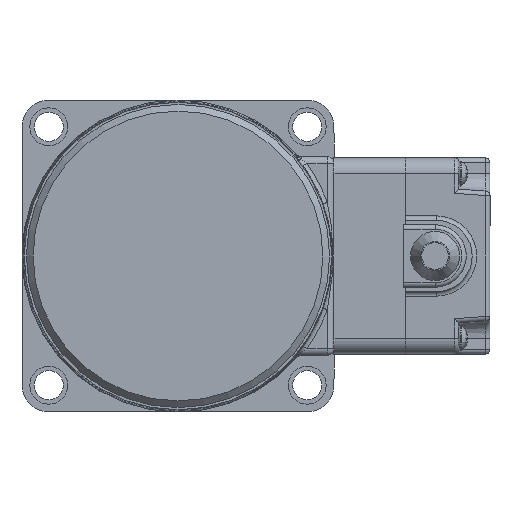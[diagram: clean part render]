
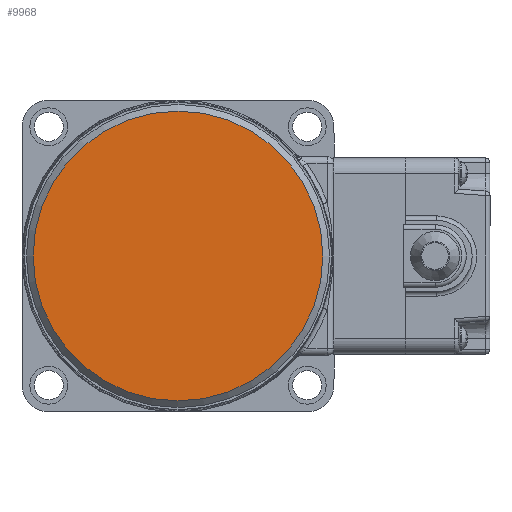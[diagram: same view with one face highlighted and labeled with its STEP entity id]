
A CAD part, left-side view. The second image highlights one B-rep face of the part: STEP entity #9968.
In plain terms, the highlighted planar face has unit normal (-1, 0, 0).
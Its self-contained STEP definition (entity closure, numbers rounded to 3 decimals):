
#2276=FACE_OUTER_BOUND('',#2901,.T.);
#2901=EDGE_LOOP('',(#6788));
#3502=CIRCLE('',#10654,32.5);
#4084=VERTEX_POINT('',#15685);
#5091=EDGE_CURVE('',#4084,#4084,#3502,.T.);
#6788=ORIENTED_EDGE('',*,*,#5091,.F.);
#9081=PLANE('',#10653);
#9968=ADVANCED_FACE('',(#2276),#9081,.T.);
#10653=AXIS2_PLACEMENT_3D('',#15684,#12085,#12086);
#10654=AXIS2_PLACEMENT_3D('',#15686,#12087,#12088);
#12085=DIRECTION('center_axis',(-1.,0.,0.));
#12086=DIRECTION('ref_axis',(0.,0.,1.));
#12087=DIRECTION('center_axis',(1.,0.,0.));
#12088=DIRECTION('ref_axis',(0.,1.,0.));
#15684=CARTESIAN_POINT('Origin',(0.,16.25,0.));
#15685=CARTESIAN_POINT('',(0.,32.5,0.));
#15686=CARTESIAN_POINT('Origin',(0.,0.,
0.));
